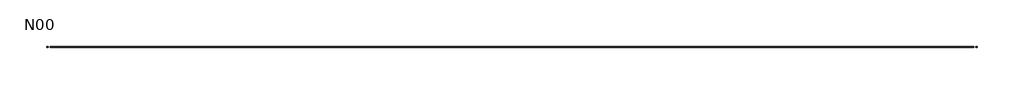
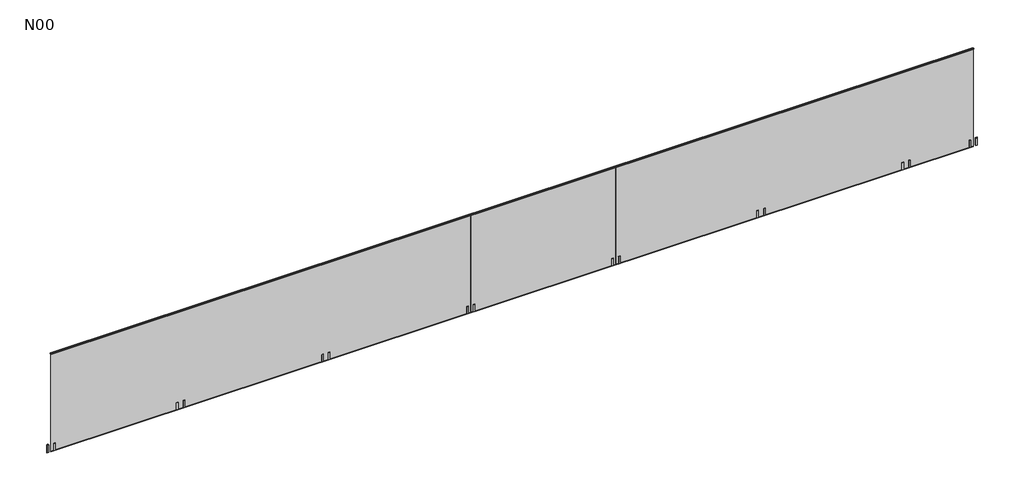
# One storey: 1 railing.
"""IFC4 building model written with IfcOpenShell, lengths in millimetres."""

from ifc_helpers import new_model, si_unit, frame, origin, place, context, project, spatial, polyline, outline, extrude, element, save

model = new_model("IFC4")

# Units and contexts
model_context = context("Model", 3, world=origin())
ifc_project = project(units=[si_unit("LENGTHUNIT", "METRE", prefix="MILLI")], contexts=[model_context])

# Site, building, storey
site = spatial("IfcSite", under=ifc_project)
building = spatial("IfcBuilding", under=site)
storey = spatial("IfcBuildingStorey", under=building, Name="N00", Elevation=0.0)

# Railing
placement = place(None, origin())
element("IfcRailing", 1, ObjectType="ARQ_G.C._VIDRO", at=placement, inside=storey, context=model_context, shape_type="SweptSolid", body=[
    extrude(outline(polyline([(-2.4837229, 1000.0), (-2.4837229, 995.0), (-5.0325489, 995.0), (-5.0325489, 1000.0), (-5.0325489, 1002.5000495), (0.0, 1002.5000495), (5.0325489, 1002.5000495), (5.0325489, 1000.0), (5.0325489, 995.0), (2.4837229, 995.0), (2.4837229, 1000.0), (0.0, 1000.0), (-2.4837229, 1000.0)])), frame((3000.0, 0.0, 0.0), z_axis=(1.0, 0.0, 0.0), x_axis=(0.0, 1.0, 0.0)), (0.0, 0.0, 1.0), 8900.0),
    extrude(outline(polyline([(2.5325489, 0.0), (0.0, 0.0), (-2.5325489, 0.0), (-2.5325489, 2.5000495), (0.0, 2.5000495), (2.5325489, 2.5000495), (2.5325489, 0.0)])), frame((3000.0, 0.0, 0.0), z_axis=(1.0, 0.0, 0.0), x_axis=(0.0, 1.0, 0.0)), (0.0, 0.0, 1.0), 8900.0),
    extrude(outline(polyline([(2.5343974, 0.0), (0.0, 0.0), (-2.4656026, 0.0), (-2.4656026, 1000.0), (2.5343974, 1000.0), (2.5343974, 0.0)])), frame((3000.0, 0.0, 0.0), z_axis=(1.0, 0.0, 0.0), x_axis=(0.0, 1.0, 0.0)), (0.0, 0.0, 1.0), 8900.0),
    extrude(outline(polyline([(11210.0, 2.5), (11210.0, 5.0), (11225.0, 5.0), (11225.0, 2.5), (11210.0, 2.5)])), frame((0.0, 0.0, 2.5000495), z_axis=(0.0, 0.0, 1.0), x_axis=(1.0, 0.0, 0.0)), (0.0, 0.0, 1.0), 75.0),
    extrude(outline(polyline([(11210.0, -2.5), (11225.0, -2.5), (11225.0, -5.0), (11210.0, -5.0), (11210.0, -2.5)])), frame((0.0, 0.0, 2.5000495), z_axis=(0.0, 0.0, 1.0), x_axis=(1.0, 0.0, 0.0)), (0.0, 0.0, 1.0), 75.0),
    extrude(outline(polyline([(11290.0, 2.5), (11275.0, 2.5), (11275.0, 5.0), (11290.0, 5.0), (11290.0, 2.5)])), frame((0.0, 0.0, 2.5000495), z_axis=(0.0, 0.0, 1.0), x_axis=(1.0, 0.0, 0.0)), (0.0, 0.0, 1.0), 75.0),
    extrude(outline(polyline([(11290.0, -2.5), (11290.0, -5.0), (11275.0, -5.0), (11275.0, -2.5), (11290.0, -2.5)])), frame((0.0, 0.0, 2.5000495), z_axis=(0.0, 0.0, 1.0), x_axis=(1.0, 0.0, 0.0)), (0.0, 0.0, 1.0), 75.0),
    extrude(outline(polyline([(11248.5, 1.9690884), (11250.0, 1.9690884), (11251.5, 1.9690884), (11251.5, -2.0309116), (11250.0, -2.0309116), (11248.5, -2.0309116), (11248.5, 1.9690884)])), frame((0.0, 0.0, 2.5000495), z_axis=(0.0, 0.0, 1.0), x_axis=(1.0, 0.0, 0.0)), (0.0, 0.0, 1.0), 1000.0),
    extrude(outline(polyline([(9810.0, 2.5), (9810.0, 5.0), (9825.0, 5.0), (9825.0, 2.5), (9810.0, 2.5)])), frame((0.0, 0.0, 2.5000495), z_axis=(0.0, 0.0, 1.0), x_axis=(1.0, 0.0, 0.0)), (0.0, 0.0, 1.0), 75.0),
    extrude(outline(polyline([(9810.0, -2.5), (9825.0, -2.5), (9825.0, -5.0), (9810.0, -5.0), (9810.0, -2.5)])), frame((0.0, 0.0, 2.5000495), z_axis=(0.0, 0.0, 1.0), x_axis=(1.0, 0.0, 0.0)), (0.0, 0.0, 1.0), 75.0),
    extrude(outline(polyline([(9890.0, 2.5), (9875.0, 2.5), (9875.0, 5.0), (9890.0, 5.0), (9890.0, 2.5)])), frame((0.0, 0.0, 2.5000495), z_axis=(0.0, 0.0, 1.0), x_axis=(1.0, 0.0, 0.0)), (0.0, 0.0, 1.0), 75.0),
    extrude(outline(polyline([(9890.0, -2.5), (9890.0, -5.0), (9875.0, -5.0), (9875.0, -2.5), (9890.0, -2.5)])), frame((0.0, 0.0, 2.5000495), z_axis=(0.0, 0.0, 1.0), x_axis=(1.0, 0.0, 0.0)), (0.0, 0.0, 1.0), 75.0),
    extrude(outline(polyline([(9848.5, 1.9690884), (9850.0, 1.9690884), (9851.5, 1.9690884), (9851.5, -2.0309116), (9850.0, -2.0309116), (9848.5, -2.0309116), (9848.5, 1.9690884)])), frame((0.0, 0.0, 2.5000495), z_axis=(0.0, 0.0, 1.0), x_axis=(1.0, 0.0, 0.0)), (0.0, 0.0, 1.0), 1000.0),
    extrude(outline(polyline([(8410.0, 2.5), (8410.0, 5.0), (8425.0, 5.0), (8425.0, 2.5), (8410.0, 2.5)])), frame((0.0, 0.0, 2.5000495), z_axis=(0.0, 0.0, 1.0), x_axis=(1.0, 0.0, 0.0)), (0.0, 0.0, 1.0), 75.0),
    extrude(outline(polyline([(8410.0, -2.5), (8425.0, -2.5), (8425.0, -5.0), (8410.0, -5.0), (8410.0, -2.5)])), frame((0.0, 0.0, 2.5000495), z_axis=(0.0, 0.0, 1.0), x_axis=(1.0, 0.0, 0.0)), (0.0, 0.0, 1.0), 75.0),
    extrude(outline(polyline([(8490.0, 2.5), (8475.0, 2.5), (8475.0, 5.0), (8490.0, 5.0), (8490.0, 2.5)])), frame((0.0, 0.0, 2.5000495), z_axis=(0.0, 0.0, 1.0), x_axis=(1.0, 0.0, 0.0)), (0.0, 0.0, 1.0), 75.0),
    extrude(outline(polyline([(8490.0, -2.5), (8490.0, -5.0), (8475.0, -5.0), (8475.0, -2.5), (8490.0, -2.5)])), frame((0.0, 0.0, 2.5000495), z_axis=(0.0, 0.0, 1.0), x_axis=(1.0, 0.0, 0.0)), (0.0, 0.0, 1.0), 75.0),
    extrude(outline(polyline([(8448.5, 1.9690884), (8450.0, 1.9690884), (8451.5, 1.9690884), (8451.5, -2.0309116), (8450.0, -2.0309116), (8448.5, -2.0309116), (8448.5, 1.9690884)])), frame((0.0, 0.0, 2.5000495), z_axis=(0.0, 0.0, 1.0), x_axis=(1.0, 0.0, 0.0)), (0.0, 0.0, 1.0), 1000.0),
    extrude(outline(polyline([(7010.0, 2.5), (7010.0, 5.0), (7025.0, 5.0), (7025.0, 2.5), (7010.0, 2.5)])), frame((0.0, 0.0, 2.5000495), z_axis=(0.0, 0.0, 1.0), x_axis=(1.0, 0.0, 0.0)), (0.0, 0.0, 1.0), 75.0),
    extrude(outline(polyline([(7010.0, -2.5), (7025.0, -2.5), (7025.0, -5.0), (7010.0, -5.0), (7010.0, -2.5)])), frame((0.0, 0.0, 2.5000495), z_axis=(0.0, 0.0, 1.0), x_axis=(1.0, 0.0, 0.0)), (0.0, 0.0, 1.0), 75.0),
    extrude(outline(polyline([(7090.0, 2.5), (7075.0, 2.5), (7075.0, 5.0), (7090.0, 5.0), (7090.0, 2.5)])), frame((0.0, 0.0, 2.5000495), z_axis=(0.0, 0.0, 1.0), x_axis=(1.0, 0.0, 0.0)), (0.0, 0.0, 1.0), 75.0),
    extrude(outline(polyline([(7090.0, -2.5), (7090.0, -5.0), (7075.0, -5.0), (7075.0, -2.5), (7090.0, -2.5)])), frame((0.0, 0.0, 2.5000495), z_axis=(0.0, 0.0, 1.0), x_axis=(1.0, 0.0, 0.0)), (0.0, 0.0, 1.0), 75.0),
    extrude(outline(polyline([(7048.5, 1.9690884), (7050.0, 1.9690884), (7051.5, 1.9690884), (7051.5, -2.0309116), (7050.0, -2.0309116), (7048.5, -2.0309116), (7048.5, 1.9690884)])), frame((0.0, 0.0, 2.5000495), z_axis=(0.0, 0.0, 1.0), x_axis=(1.0, 0.0, 0.0)), (0.0, 0.0, 1.0), 1000.0),
    extrude(outline(polyline([(5610.0, 2.5), (5610.0, 5.0), (5625.0, 5.0), (5625.0, 2.5), (5610.0, 2.5)])), frame((0.0, 0.0, 2.5000495), z_axis=(0.0, 0.0, 1.0), x_axis=(1.0, 0.0, 0.0)), (0.0, 0.0, 1.0), 75.0),
    extrude(outline(polyline([(5610.0, -2.5), (5625.0, -2.5), (5625.0, -5.0), (5610.0, -5.0), (5610.0, -2.5)])), frame((0.0, 0.0, 2.5000495), z_axis=(0.0, 0.0, 1.0), x_axis=(1.0, 0.0, 0.0)), (0.0, 0.0, 1.0), 75.0),
    extrude(outline(polyline([(5690.0, 2.5), (5675.0, 2.5), (5675.0, 5.0), (5690.0, 5.0), (5690.0, 2.5)])), frame((0.0, 0.0, 2.5000495), z_axis=(0.0, 0.0, 1.0), x_axis=(1.0, 0.0, 0.0)), (0.0, 0.0, 1.0), 75.0),
    extrude(outline(polyline([(5690.0, -2.5), (5690.0, -5.0), (5675.0, -5.0), (5675.0, -2.5), (5690.0, -2.5)])), frame((0.0, 0.0, 2.5000495), z_axis=(0.0, 0.0, 1.0), x_axis=(1.0, 0.0, 0.0)), (0.0, 0.0, 1.0), 75.0),
    extrude(outline(polyline([(5648.5, 1.9690884), (5650.0, 1.9690884), (5651.5, 1.9690884), (5651.5, -2.0309116), (5650.0, -2.0309116), (5648.5, -2.0309116), (5648.5, 1.9690884)])), frame((0.0, 0.0, 2.5000495), z_axis=(0.0, 0.0, 1.0), x_axis=(1.0, 0.0, 0.0)), (0.0, 0.0, 1.0), 1000.0),
    extrude(outline(polyline([(4210.0, 2.5), (4210.0, 5.0), (4225.0, 5.0), (4225.0, 2.5), (4210.0, 2.5)])), frame((0.0, 0.0, 2.5000495), z_axis=(0.0, 0.0, 1.0), x_axis=(1.0, 0.0, 0.0)), (0.0, 0.0, 1.0), 75.0),
    extrude(outline(polyline([(4210.0, -2.5), (4225.0, -2.5), (4225.0, -5.0), (4210.0, -5.0), (4210.0, -2.5)])), frame((0.0, 0.0, 2.5000495), z_axis=(0.0, 0.0, 1.0), x_axis=(1.0, 0.0, 0.0)), (0.0, 0.0, 1.0), 75.0),
    extrude(outline(polyline([(4290.0, 2.5), (4275.0, 2.5), (4275.0, 5.0), (4290.0, 5.0), (4290.0, 2.5)])), frame((0.0, 0.0, 2.5000495), z_axis=(0.0, 0.0, 1.0), x_axis=(1.0, 0.0, 0.0)), (0.0, 0.0, 1.0), 75.0),
    extrude(outline(polyline([(4290.0, -2.5), (4290.0, -5.0), (4275.0, -5.0), (4275.0, -2.5), (4290.0, -2.5)])), frame((0.0, 0.0, 2.5000495), z_axis=(0.0, 0.0, 1.0), x_axis=(1.0, 0.0, 0.0)), (0.0, 0.0, 1.0), 75.0),
    extrude(outline(polyline([(4248.5, 1.9690884), (4250.0, 1.9690884), (4251.5, 1.9690884), (4251.5, -2.0309116), (4250.0, -2.0309116), (4248.5, -2.0309116), (4248.5, 1.9690884)])), frame((0.0, 0.0, 2.5000495), z_axis=(0.0, 0.0, 1.0), x_axis=(1.0, 0.0, 0.0)), (0.0, 0.0, 1.0), 1000.0),
    extrude(outline(polyline([(11858.0, 2.5), (11858.0, 5.0), (11873.0, 5.0), (11873.0, 2.5), (11858.0, 2.5)])), frame((0.0, 0.0, 2.5000495), z_axis=(0.0, 0.0, 1.0), x_axis=(1.0, 0.0, 0.0)), (0.0, 0.0, 1.0), 75.0),
    extrude(outline(polyline([(11858.0, -2.5), (11873.0, -2.5), (11873.0, -5.0), (11858.0, -5.0), (11858.0, -2.5)])), frame((0.0, 0.0, 2.5000495), z_axis=(0.0, 0.0, 1.0), x_axis=(1.0, 0.0, 0.0)), (0.0, 0.0, 1.0), 75.0),
    extrude(outline(polyline([(11938.0, 2.5), (11923.0, 2.5), (11923.0, 5.0), (11938.0, 5.0), (11938.0, 2.5)])), frame((0.0, 0.0, 2.5000495), z_axis=(0.0, 0.0, 1.0), x_axis=(1.0, 0.0, 0.0)), (0.0, 0.0, 1.0), 75.0),
    extrude(outline(polyline([(11938.0, -2.5), (11938.0, -5.0), (11923.0, -5.0), (11923.0, -2.5), (11938.0, -2.5)])), frame((0.0, 0.0, 2.5000495), z_axis=(0.0, 0.0, 1.0), x_axis=(1.0, 0.0, 0.0)), (0.0, 0.0, 1.0), 75.0),
    extrude(outline(polyline([(11896.5, 1.9690884), (11898.0, 1.9690884), (11899.5, 1.9690884), (11899.5, -2.0309116), (11898.0, -2.0309116), (11896.5, -2.0309116), (11896.5, 1.9690884)])), frame((0.0, 0.0, 2.5000495), z_axis=(0.0, 0.0, 1.0), x_axis=(1.0, 0.0, 0.0)), (0.0, 0.0, 1.0), 1000.0),
    extrude(outline(polyline([(2962.0, 2.5), (2962.0, 5.0), (2977.0, 5.0), (2977.0, 2.5), (2962.0, 2.5)])), frame((0.0, 0.0, 2.5000495), z_axis=(0.0, 0.0, 1.0), x_axis=(1.0, 0.0, 0.0)), (0.0, 0.0, 1.0), 75.0),
    extrude(outline(polyline([(2962.0, -2.5), (2977.0, -2.5), (2977.0, -5.0), (2962.0, -5.0), (2962.0, -2.5)])), frame((0.0, 0.0, 2.5000495), z_axis=(0.0, 0.0, 1.0), x_axis=(1.0, 0.0, 0.0)), (0.0, 0.0, 1.0), 75.0),
    extrude(outline(polyline([(3042.0, 2.5), (3027.0, 2.5), (3027.0, 5.0), (3042.0, 5.0), (3042.0, 2.5)])), frame((0.0, 0.0, 2.5000495), z_axis=(0.0, 0.0, 1.0), x_axis=(1.0, 0.0, 0.0)), (0.0, 0.0, 1.0), 75.0),
    extrude(outline(polyline([(3042.0, -2.5), (3042.0, -5.0), (3027.0, -5.0), (3027.0, -2.5), (3042.0, -2.5)])), frame((0.0, 0.0, 2.5000495), z_axis=(0.0, 0.0, 1.0), x_axis=(1.0, 0.0, 0.0)), (0.0, 0.0, 1.0), 75.0),
    extrude(outline(polyline([(3000.5, 1.9690884), (3002.0, 1.9690884), (3003.5, 1.9690884), (3003.5, -2.0309116), (3002.0, -2.0309116), (3000.5, -2.0309116), (3000.5, 1.9690884)])), frame((0.0, 0.0, 2.5000495), z_axis=(0.0, 0.0, 1.0), x_axis=(1.0, 0.0, 0.0)), (0.0, 0.0, 1.0), 1000.0),
])

save(model, "model.ifc")
